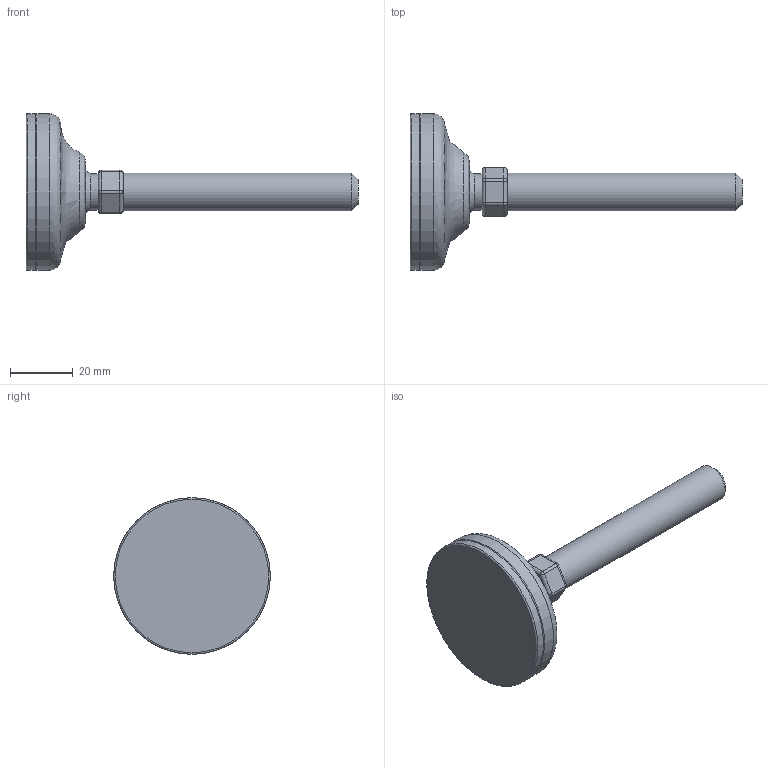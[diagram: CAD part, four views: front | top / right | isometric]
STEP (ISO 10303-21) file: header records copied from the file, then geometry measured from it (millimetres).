
FILE_DESCRIPTION(('STEP AP203'),'2;1');
FILE_NAME('10693.stp','2016-11-15T07:19:43',(''),(''),'2008.1.107','THINKDESIGN','');
FILE_SCHEMA(('CONFIG_CONTROL_DESIGN'));
Length unit declared in the file: millimetre
Bounding box: 106 x 50 x 50 mm (x, y, z)
Volume: 36717.6 mm3; surface area: 13664.6 mm2
Topology: 5 solids, 5 shells, 57 faces, 125 edges, 66 vertices
Faces by surface type: cylinder 22, bspline 19, plane 16
Full cylindrical faces by diameter (mm): 11.5 x1, 12 x1, 50 x2
Entity records: 2847 total; most frequent: CARTESIAN_POINT 1585, DIRECTION 261, ORIENTED_EDGE 226, EDGE_CURVE 113, AXIS2_PLACEMENT_3D 110, CIRCLE 72, VERTEX_POINT 66, EDGE_LOOP 57
